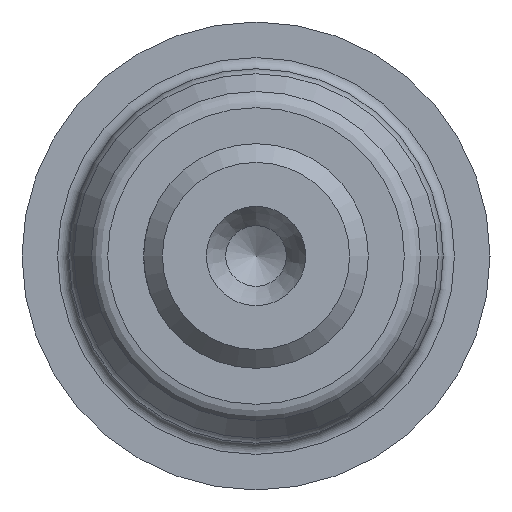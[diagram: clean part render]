
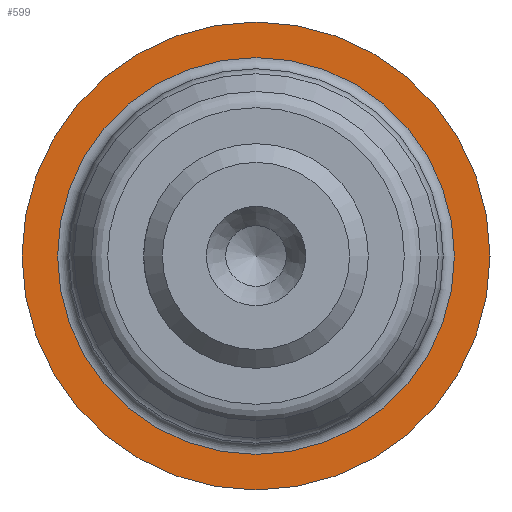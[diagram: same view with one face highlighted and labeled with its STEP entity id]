
A CAD part, left-side view. The second image highlights one B-rep face of the part: STEP entity #599.
In plain terms, the highlighted planar face has unit normal (-1, 0, 0).
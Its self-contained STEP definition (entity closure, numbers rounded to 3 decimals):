
#34=FACE_BOUND('',#131,.T.);
#46=PLANE('',#690);
#88=FACE_OUTER_BOUND('',#130,.T.);
#130=EDGE_LOOP('',(#525));
#131=EDGE_LOOP('',(#526));
#234=CIRCLE('',#689,10.6);
#235=CIRCLE('',#691,12.5);
#295=VERTEX_POINT('',#1124);
#296=VERTEX_POINT('',#1128);
#374=EDGE_CURVE('',#295,#295,#234,.T.);
#375=EDGE_CURVE('',#296,#296,#235,.T.);
#525=ORIENTED_EDGE('',*,*,#375,.F.);
#526=ORIENTED_EDGE('',*,*,#374,.T.);
#599=ADVANCED_FACE('',(#88,#34),#46,.T.);
#689=AXIS2_PLACEMENT_3D('',#1126,#860,#861);
#690=AXIS2_PLACEMENT_3D('',#1127,#862,#863);
#691=AXIS2_PLACEMENT_3D('',#1129,#864,#865);
#860=DIRECTION('center_axis',(1.,0.,0.));
#861=DIRECTION('ref_axis',(0.,0.,-1.));
#862=DIRECTION('center_axis',(-1.,0.,0.));
#863=DIRECTION('ref_axis',(0.,0.,1.));
#864=DIRECTION('center_axis',(1.,0.,0.));
#865=DIRECTION('ref_axis',(0.,0.,-1.));
#1124=CARTESIAN_POINT('',(-27.,0.,10.6));
#1126=CARTESIAN_POINT('Origin',(-27.,0.,0.));
#1127=CARTESIAN_POINT('Origin',(-27.,12.5,0.));
#1128=CARTESIAN_POINT('',(-27.,-12.5,0.));
#1129=CARTESIAN_POINT('Origin',(-27.,0.,0.));
